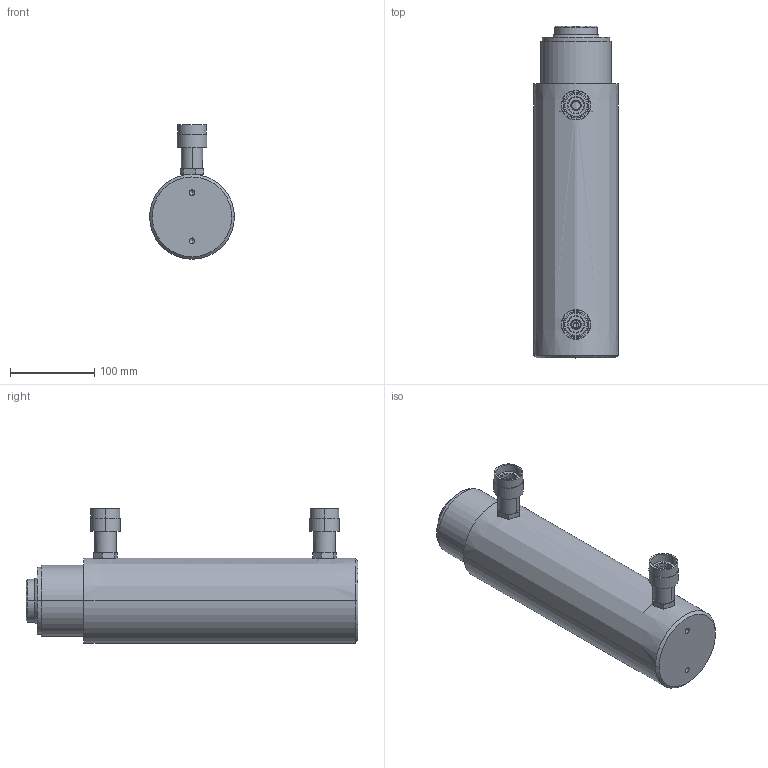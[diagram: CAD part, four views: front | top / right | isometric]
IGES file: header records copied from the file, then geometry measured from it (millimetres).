
Start section:  PTC IGES file: RR-308.igs
Global section: file name: RR-308.igs; native system: Creo Parametric by Parametric Technology Corporation; preprocessor: 2014200; author: mike.ward; organization: Unknown; date: 20150615.141347; units: inch
Bounding box: 100.8 x 394.21 x 159.67 mm (x, y, z)
Volume: 2500042 mm3; surface area: 333729.7 mm2
Topology: 3 solids, 6 shells, 403 faces, 890 edges, 531 vertices
Faces by surface type: revolution 303, bspline 100
